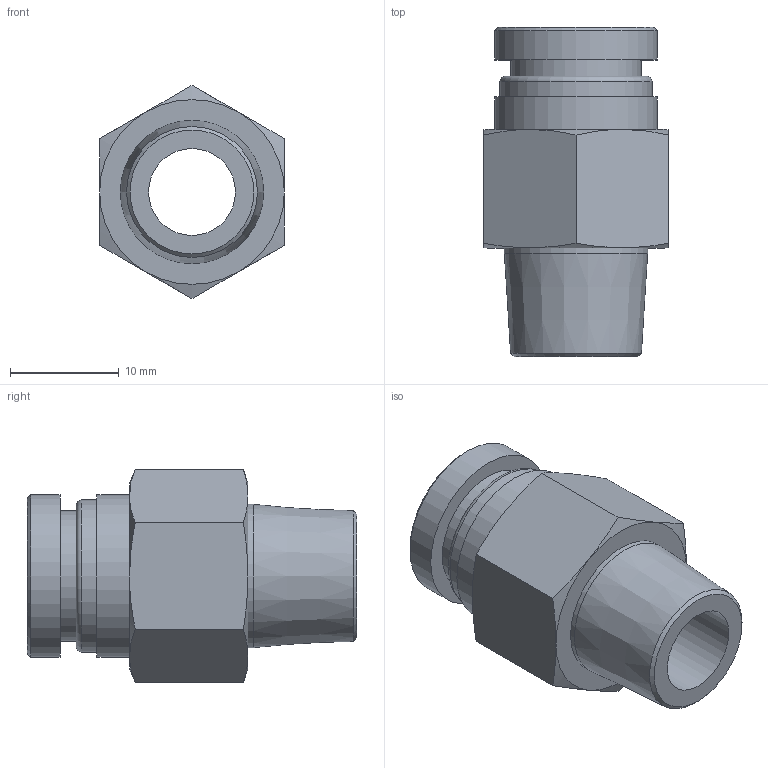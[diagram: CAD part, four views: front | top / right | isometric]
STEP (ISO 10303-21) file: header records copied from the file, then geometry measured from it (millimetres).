
FILE_DESCRIPTION(/* description */ (''),/* implementation_level */ '2;1');
FILE_NAME(/* name */ 'LXH11 0010 B2.stp',/* time_stamp */ '2026-04-19T14:00:22+02:00',/* author */ ('freju'),/* organization */ (''),/* preprocessor_version */ 'ST-DEVELOPER v20.1',/* originating_system */ 'Autodesk Inventor 2026',/* authorisation */ '');
FILE_SCHEMA (('AUTOMOTIVE_DESIGN { 1 0 10303 214 3 1 1 }'));
Length unit declared in the file: millimetre
Products named in the file (1): LXH11 0010 B2
Bounding box: 17 x 30.3 x 19.63 mm (x, y, z)
Volume: 3543.3 mm3; surface area: 2781.2 mm2
Topology: 1 solids, 1 shells, 37 faces, 74 edges, 45 vertices
Faces by surface type: cone 15, plane 14, cylinder 7, torus 1
Full cylindrical faces by diameter (mm): 8 x1, 10 x1, 12 x1, 13.189 x1, 14 x1, 15 x2
Entity records: 981 total; most frequent: CARTESIAN_POINT 205, DIRECTION 160, ORIENTED_EDGE 148, EDGE_CURVE 74, AXIS2_PLACEMENT_3D 72, EDGE_LOOP 45, VERTEX_POINT 45, FACE_OUTER_BOUND 37
